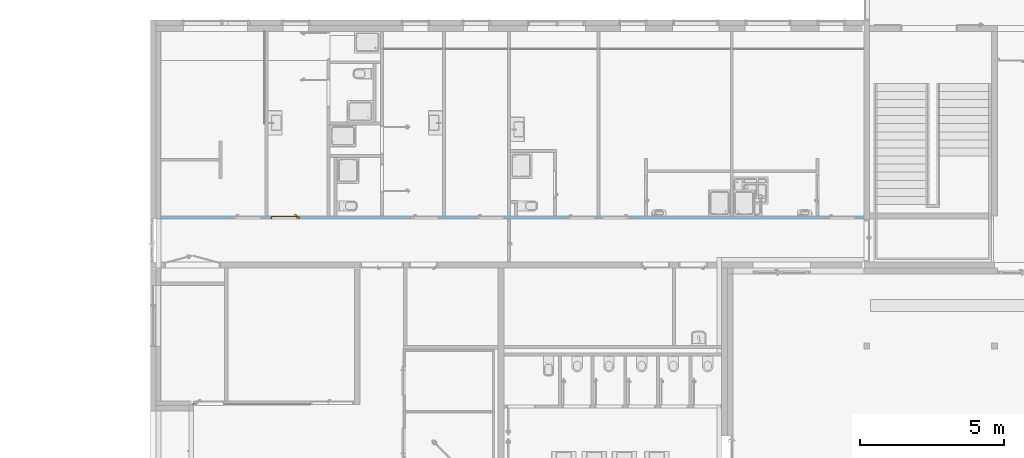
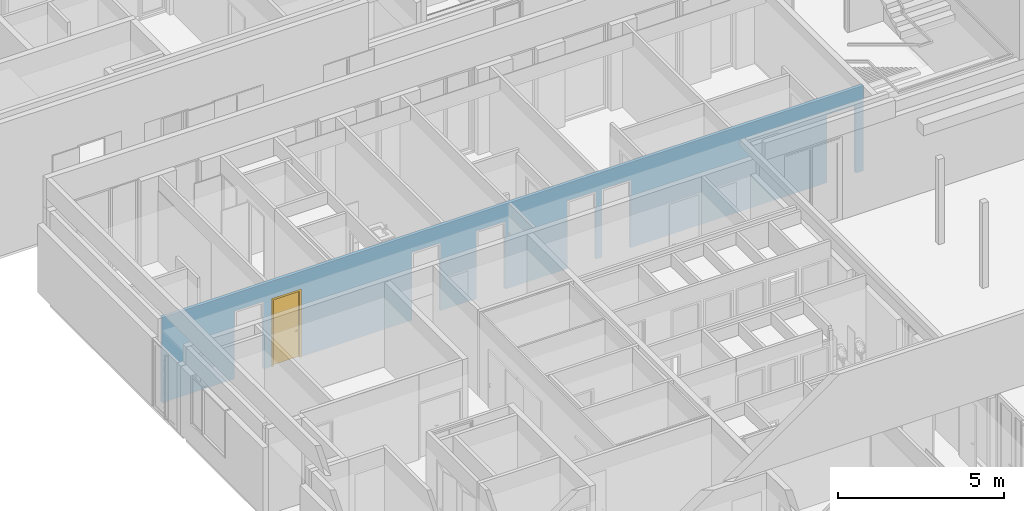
# One storey, part 107 of 240: 1 door, 7 openings, plus 1 element that does not belong to this part.
"""IFC2X3 building model written with IfcOpenShell, lengths in centimetres."""

import ifcopenshell
import ifcopenshell.guid

model = None  # the IFC model being written
_history = None  # IfcOwnerHistory: only IFC2X3 demands one
_inside = {}  # id of a spatial element -> (the spatial element, [elements in it])
_under = {}  # id of a project, library or spatial element -> (it, [spatial elements below it])
_declared = {}  # id of a project -> (the project, [libraries it declares])
_typed = {}  # id of a type object -> (the type object, [elements of that type])
_made_of = {}  # id of a material, layer set ... -> (it, [elements and type objects made of it])


def new_model(schema):
    """Start an empty IFC model of exactly this schema.

    Asked for "IFC4X3", IfcOpenShell would pick the latest addendum, in which some entities
    have other attributes; the version numbers below select the first issue.
    IFC2X3 requires an IfcOwnerHistory on every rooted entity: one is made here for all.
    """
    global model, _history
    if schema == "IFC4X3":
        model = ifcopenshell.file(schema_version=(4, 3, 0, 0))
    else:
        model = ifcopenshell.file(schema=schema)
    _inside.clear()
    _under.clear()
    _declared.clear()
    _typed.clear()
    _made_of.clear()
    _history = None
    if model.schema == "IFC2X3":
        org = make("IfcOrganization", Name="unknown")
        user = make(
            "IfcPersonAndOrganization",
            ThePerson=make("IfcPerson", FamilyName="unknown"),
            TheOrganization=org,
        )
        app = make(
            "IfcApplication",
            ApplicationDeveloper=org,
            Version="unknown",
            ApplicationFullName="unknown",
            ApplicationIdentifier="unknown",
        )
        _history = make(
            "IfcOwnerHistory",
            OwningUser=user,
            OwningApplication=app,
            ChangeAction="ADDED",
            CreationDate=0,
        )
    return model


def make(cls, **values):
    """One entity of the class cls with the attributes given. An attribute that is None is left unset."""
    return model.create_entity(
        cls, **{name: value for name, value in values.items() if value is not None}
    )


def entity(cls, *values):
    """Any entity or typed value of the class cls, its attributes in the order of the schema. None: left unset."""
    e = model.create_entity(cls)
    for i, value in enumerate(values):
        if value is not None:
            e[i] = value
    return e


def rooted(cls, **values):
    """An entity with a GlobalId (a new one), such as an element, a storey or a relation."""
    return make(cls, GlobalId=ifcopenshell.guid.new(), OwnerHistory=_history, **values)


def si_unit(unit_type, name, prefix=None):
    """IfcSIUnit, for example si_unit("LENGTHUNIT", "METRE", prefix="MILLI")."""
    return make("IfcSIUnit", UnitType=unit_type, Prefix=prefix, Name=name)


def converted_unit(unit_type, name, factor, base, dimensions=None, offset=None):
    """IfcConversionBasedUnit, such as the inch: factor (a typed value) times the base unit."""
    return make(
        "IfcConversionBasedUnit"
        if offset is None
        else "IfcConversionBasedUnitWithOffset",
        ConversionOffset=offset,
        Dimensions=None
        if dimensions is None
        else entity("IfcDimensionalExponents", *dimensions),
        UnitType=unit_type,
        Name=name,
        ConversionFactor=make(
            "IfcMeasureWithUnit", ValueComponent=factor, UnitComponent=base
        ),
    )


def derived_unit(unit_type, elements):
    """IfcDerivedUnit: a product of units, each with its exponent."""
    return make(
        "IfcDerivedUnit",
        Elements=[
            make("IfcDerivedUnitElement", Unit=unit, Exponent=power)
            for unit, power in elements
        ],
        UnitType=unit_type,
    )


def assignment(units):
    """IfcUnitAssignment: the units of a project."""
    return None if units is None else make("IfcUnitAssignment", Units=units)


def point(xyz):
    """IfcCartesianPoint."""
    return None if xyz is None else make("IfcCartesianPoint", Coordinates=xyz)


def direction(xyz):
    """IfcDirection."""
    return None if xyz is None else make("IfcDirection", DirectionRatios=xyz)


def frame(location, z_axis=None, x_axis=None):
    """IfcAxis2Placement3D, a coordinate frame: its origin and axes. An axis left out is left unset."""
    return make(
        "IfcAxis2Placement3D",
        Location=point(location),
        Axis=direction(z_axis),
        RefDirection=direction(x_axis),
    )


def frame_2d(location, x_axis=None):
    """IfcAxis2Placement2D, a coordinate frame in the plane: its origin and x axis."""
    return make(
        "IfcAxis2Placement2D", Location=point(location), RefDirection=direction(x_axis)
    )


def origin():
    """The frame at (0, 0, 0) with its axes left unset."""
    return frame((0.0, 0.0, 0.0))


def place(relative_to, where):
    """IfcLocalPlacement: puts the frame where relative to a parent placement (None: the world)."""
    return make(
        "IfcLocalPlacement", PlacementRelTo=relative_to, RelativePlacement=where
    )


def context(
    kind, dimensions, precision=None, world=None, true_north=None, identifier=None
):
    """IfcGeometricRepresentationContext, for example the 3D "Model" context."""
    return make(
        "IfcGeometricRepresentationContext",
        ContextIdentifier=identifier,
        ContextType=kind,
        CoordinateSpaceDimension=dimensions,
        Precision=precision,
        WorldCoordinateSystem=world,
        TrueNorth=true_north,
    )


def subcontext(parent, identifier, kind, view, scale=None):
    """IfcGeometricRepresentationSubContext, for example "Body" below "Model"."""
    return make(
        "IfcGeometricRepresentationSubContext",
        ContextIdentifier=identifier,
        ContextType=kind,
        ParentContext=parent,
        TargetScale=scale,
        TargetView=view,
    )


def project(units=None, contexts=None):
    """IfcProject with its units and contexts."""
    return rooted(
        "IfcProject",
        Name="project",
        RepresentationContexts=contexts,
        UnitsInContext=assignment(units),
    )


def spatial(cls, under=None, at=None, **own):
    """A site, building, storey or space (cls), placed at a placement, below another one or the project."""
    s = rooted(cls, ObjectPlacement=at, **own)
    if under is not None:
        _under.setdefault(under.id(), (under, []))[1].append(s)
    return s


def profile(cls, at=None, kind="AREA", **sizes):
    """A parametric profile (cls). Its sizes go by their IFC names, for example OverallWidth=200.0."""
    return make(cls, ProfileType=kind, Position=at, **sizes)


def rectangle(**sizes):
    """IfcRectangleProfileDef."""
    return profile("IfcRectangleProfileDef", **sizes)


def extrude(swept, where, along, depth):
    """IfcExtrudedAreaSolid: the profile swept, set in the frame where, extruded along a direction by depth."""
    return make(
        "IfcExtrudedAreaSolid",
        SweptArea=swept,
        Position=where,
        ExtrudedDirection=direction(along),
        Depth=depth,
    )


def faces_of(points, faces, orient=None, outer=None):
    """IfcFace entities. A face is a list of loops; a loop is a list of indices into points, from 0.

    orient and outer hold one flag for each loop. By default every Orientation is true, the
    first loop of a face is its IfcFaceOuterBound and the others are IfcFaceBound.
    """
    made = []
    for i, loops in enumerate(faces):
        bounds = []
        for j, loop in enumerate(loops):
            is_outer = j == 0 if outer is None else outer[i][j]
            bounds.append(
                make(
                    "IfcFaceOuterBound" if is_outer else "IfcFaceBound",
                    Bound=make("IfcPolyLoop", Polygon=[points[k] for k in loop]),
                    Orientation=True if orient is None else orient[i][j],
                )
            )
        made.append(make("IfcFace", Bounds=bounds))
    return made


def faceted_brep(points, faces, orient=None, outer=None, voids=None):
    """IfcFacetedBrep: a solid bounded by flat faces; with voids (closed shells), ...WithVoids."""
    shared = [point(p) for p in points]
    hull = make("IfcClosedShell", CfsFaces=faces_of(shared, faces, orient, outer))
    if voids is None:
        return make("IfcFacetedBrep", Outer=hull)
    return make(
        "IfcFacetedBrepWithVoids",
        Outer=hull,
        Voids=[
            make(cls, CfsFaces=faces_of(shared, fs, o, b)) for cls, fs, o, b in voids
        ],
    )


def shape(context_of_items, identifier, shape_type, items):
    """IfcShapeRepresentation: the items that make up one representation, for example the "Body"."""
    return make(
        "IfcShapeRepresentation",
        ContextOfItems=context_of_items,
        RepresentationIdentifier=identifier,
        RepresentationType=shape_type,
        Items=items,
    )


def source(mapping_origin, context_of_items, identifier, shape_type, items):
    """IfcRepresentationMap: a shape defined once, which mapped items show again and again."""
    return make(
        "IfcRepresentationMap",
        MappingOrigin=mapping_origin,
        MappedRepresentation=shape(context_of_items, identifier, shape_type, items),
    )


def transform(
    local_origin,
    x_axis=None,
    y_axis=None,
    z_axis=None,
    scale=None,
    scale2=None,
    scale3=None,
    uniform=True,
):
    """IfcCartesianTransformationOperator3D, or its non-uniform kind. x_axis, y_axis, z_axis: its Axis1, 2, 3."""
    if uniform:
        return make(
            "IfcCartesianTransformationOperator3D",
            Axis1=direction(x_axis),
            Axis2=direction(y_axis),
            LocalOrigin=point(local_origin),
            Scale=scale,
            Axis3=direction(z_axis),
        )
    return make(
        "IfcCartesianTransformationOperator3DnonUniform",
        Axis1=direction(x_axis),
        Axis2=direction(y_axis),
        LocalOrigin=point(local_origin),
        Scale=scale,
        Axis3=direction(z_axis),
        Scale2=scale2,
        Scale3=scale3,
    )


def mapped(mapping_source, mapping_target):
    """IfcMappedItem: shows the shape of a source again, moved by a transform."""
    return make(
        "IfcMappedItem", MappingSource=mapping_source, MappingTarget=mapping_target
    )


def material(Name=None, Category=None):
    """IfcMaterial."""
    return make("IfcMaterial", Name=Name, Category=Category)


def material_list(materials):
    """IfcMaterialList."""
    return make("IfcMaterialList", Materials=materials)


def layer(
    of_material, thickness, ventilated=None, Name=None, Category=None, Priority=None
):
    """IfcMaterialLayer: one layer of a wall or slab, of a material (None: an air gap)."""
    return make(
        "IfcMaterialLayer",
        Material=of_material,
        LayerThickness=thickness,
        IsVentilated=ventilated,
        Name=Name,
        Category=Category,
        Priority=Priority,
    )


def layer_set(layers, Name=None):
    """IfcMaterialLayerSet."""
    return make("IfcMaterialLayerSet", MaterialLayers=layers, LayerSetName=Name)


def layer_usage(for_layer_set, set_direction, sense, offset, extent=None):
    """IfcMaterialLayerSetUsage: how a layer set lies in its element."""
    return make(
        "IfcMaterialLayerSetUsage",
        ForLayerSet=for_layer_set,
        LayerSetDirection=set_direction,
        DirectionSense=sense,
        OffsetFromReferenceLine=offset,
        ReferenceExtent=extent,
    )


def made_of(thing, what):
    """Note that an element or type object is made of a material, layer set ...; save() writes the relation."""
    if what is not None:
        _made_of.setdefault(what.id(), (what, []))[1].append(thing)
    return thing


def type_object(cls, material=None, **own):
    """A type object (cls), such as IfcWallType, which elements share."""
    return made_of(rooted(cls, **own), material)


def type_shapes(of_type, sources):
    """Give a type object the sources (RepresentationMaps) that its elements show as mapped items."""
    of_type.RepresentationMaps = sources


def element(
    cls,
    number,
    at=None,
    inside=None,
    cuts=None,
    type_object=None,
    material=None,
    context=None,
    identifier="Body",
    shape_type=None,
    held_by="IfcProductDefinitionShape",
    body=None,
    shapes=None,
    **own,
):
    """One element of the class cls, such as IfcWall. Its Tag is "e" and its number.

    at: its placement. inside: the storey or other place that contains it. cuts: it is an
    opening in that element (IfcRelVoidsElement). A single representation is given by context,
    identifier, shape_type and body (its items); several are given by shapes. held_by: the class
    of the entity that holds the representations. save() writes the other relations.
    """
    e = rooted(cls, Tag="e%d" % number, ObjectPlacement=at, **own)
    if body is not None:
        shapes = [shape(context, identifier, shape_type, body)]
    if shapes is not None:
        e.Representation = make(held_by, Representations=shapes)
    if inside is not None:
        _inside.setdefault(inside.id(), (inside, []))[1].append(e)
    if cuts is not None:
        rooted(
            "IfcRelVoidsElement", RelatingBuildingElement=cuts, RelatedOpeningElement=e
        )
    if type_object is not None:
        _typed.setdefault(type_object.id(), (type_object, []))[1].append(e)
    return made_of(e, material)


def fill(opening, filler):
    """IfcRelFillsElement: the door or window that sits in an opening."""
    return rooted(
        "IfcRelFillsElement",
        RelatingOpeningElement=opening,
        RelatedBuildingElement=filler,
    )


def aggregate(whole, parts):
    """IfcRelAggregates: a whole, such as a stair, and the parts it consists of."""
    return rooted("IfcRelAggregates", RelatingObject=whole, RelatedObjects=parts)


def save(model, path):
    """Write the relations noted so far, then the file.

    IfcRelAggregates (storeys below a building ...), IfcRelContainedInSpatialStructure (elements
    in a storey), IfcRelDefinesByType, IfcRelAssociatesMaterial and IfcRelDeclares: one each for
    every whole, place, type object, material and project.
    """
    for whole, parts in _under.values():
        aggregate(whole, parts)
    for where, things in _inside.values():
        rooted(
            "IfcRelContainedInSpatialStructure",
            RelatedElements=things,
            RelatingStructure=where,
        )
    for kind, things in _typed.values():
        rooted("IfcRelDefinesByType", RelatedObjects=things, RelatingType=kind)
    for what, things in _made_of.values():
        rooted("IfcRelAssociatesMaterial", RelatedObjects=things, RelatingMaterial=what)
    for by, libraries in _declared.values():
        rooted("IfcRelDeclares", RelatingContext=by, RelatedDefinitions=libraries)
    model.write(path)


model = new_model("IFC2X3")

# Units and contexts
model_context = context("Model", 3, precision=0.001, world=origin(), true_north=direction((6.12303176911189e-17, 1.0)))
body_context = subcontext(model_context, "Body", "Model", "MODEL_VIEW")
ifc_project = project(units=[si_unit("LENGTHUNIT", "METRE", prefix="CENTI"), si_unit("AREAUNIT", "SQUARE_METRE"), si_unit("VOLUMEUNIT", "CUBIC_METRE"), converted_unit("PLANEANGLEUNIT", "DEGREE", entity("IfcRatioMeasure", 0.0174532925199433), si_unit("PLANEANGLEUNIT", "RADIAN"), dimensions=[0, 0, 0, 0, 0, 0, 0]), si_unit("MASSUNIT", "GRAM", prefix="KILO"), derived_unit("MASSDENSITYUNIT", [(si_unit("MASSUNIT", "GRAM", prefix="KILO"), 1), (si_unit("LENGTHUNIT", "METRE"), -3)]), si_unit("TIMEUNIT", "SECOND"), si_unit("FREQUENCYUNIT", "HERTZ"), si_unit("THERMODYNAMICTEMPERATUREUNIT", "DEGREE_CELSIUS"), derived_unit("THERMALTRANSMITTANCEUNIT", [(si_unit("MASSUNIT", "GRAM", prefix="KILO"), 1), (si_unit("THERMODYNAMICTEMPERATUREUNIT", "KELVIN"), -1), (si_unit("TIMEUNIT", "SECOND"), -3)]), derived_unit("VOLUMETRICFLOWRATEUNIT", [(si_unit("LENGTHUNIT", "METRE"), 3), (si_unit("TIMEUNIT", "SECOND"), -1)]), si_unit("ELECTRICCURRENTUNIT", "AMPERE"), si_unit("ELECTRICVOLTAGEUNIT", "VOLT"), si_unit("POWERUNIT", "WATT"), si_unit("FORCEUNIT", "NEWTON", prefix="KILO"), si_unit("ILLUMINANCEUNIT", "LUX"), si_unit("LUMINOUSFLUXUNIT", "LUMEN"), si_unit("LUMINOUSINTENSITYUNIT", "CANDELA"), derived_unit("USERDEFINED", [(si_unit("MASSUNIT", "GRAM", prefix="KILO"), -1), (si_unit("LENGTHUNIT", "METRE"), -2), (si_unit("TIMEUNIT", "SECOND"), 3), (si_unit("LUMINOUSFLUXUNIT", "LUMEN"), 1)]), derived_unit("LINEARVELOCITYUNIT", [(si_unit("LENGTHUNIT", "METRE"), 1), (si_unit("TIMEUNIT", "SECOND"), -1)]), si_unit("PRESSUREUNIT", "PASCAL"), derived_unit("USERDEFINED", [(si_unit("LENGTHUNIT", "METRE"), -2), (si_unit("MASSUNIT", "GRAM", prefix="KILO"), 1), (si_unit("TIMEUNIT", "SECOND"), -2)])], contexts=[model_context])

# Site, building, storey
site_placement = place(None, frame((-2781.94577612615, 7442.24238424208, 0.0)))
site = spatial("IfcSite", under=ifc_project, at=site_placement, Name="Default", CompositionType="ELEMENT")
building_placement = place(site_placement, origin())
building = spatial("IfcBuilding", under=site, at=building_placement, CompositionType="ELEMENT")
storey_placement = place(building_placement, origin())
storey = spatial("IfcBuildingStorey", under=building, at=storey_placement, Name="N00 - COO", CompositionType="ELEMENT", Elevation=0.0)

# Wall, openings, door
ifc_material_1 = material(Name="01 - Enduit/Plâtre")
ifc_layer_1 = layer(ifc_material_1, 1.3)
ifc_material_2 = material(Name="00 - Isolant")
ifc_layer_2 = layer(ifc_material_2, 7.4)
ifc_layer_3 = layer(ifc_material_1, 1.3)
ifc_layer_set = layer_set([ifc_layer_1, ifc_layer_2, ifc_layer_3], Name="Mur de base:06 - cloisons - Ba13 10cm")
ifc_layer_usage = layer_usage(ifc_layer_set, "AXIS2", "NEGATIVE", 5.0)
wall_type = type_object("IfcWallType", Name="Mur de base:06 - cloisons - Ba13 10cm", PredefinedType="STANDARD", material=ifc_layer_set)
wall_placement = place(building_placement, frame((-10866.3130476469, -1755.0, 0.0)))
wall = element("IfcWallStandardCase", 1, at=wall_placement, inside=storey, type_object=wall_type, material=ifc_layer_usage, Name="Mur de base:06 - cloisons - Ba13 10cm", ObjectType="Mur de base:06 - cloisons - Ba13 10cm", context=body_context, shape_type="SweptSolid", body=[
    extrude(rectangle(XDim=2435.48317594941, YDim=9.99999999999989, at=frame_2d((1217.7415879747, 3.37507799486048e-14), x_axis=(-1.0, 0.0))), origin(), (0.0, 0.0, 1.0), 313.0),
])
opening_1_placement = place(wall_placement, frame((2309.31316997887, -5.0, 0.0)))
element("IfcOpeningElement", 2, at=opening_1_placement, cuts=wall, Name="Int. Simple:PP simple (0.93m x 2.50m):1", ObjectType="Opening", context=body_context, shape_type="SweptSolid", body=[
    extrude(rectangle(XDim=248.500000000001, YDim=99.9999999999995, at=frame_2d((124.250000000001, 49.9999999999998), x_axis=(1.0, 0.0))), frame((0.0, 0.0, 0.0), z_axis=(0.0, 1.0, 0.0), x_axis=(0.0, 0.0, 1.0)), (0.0, 0.0, 1.0), 10.0),
])
opening_2_placement = place(wall_placement, frame((1527.31316997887, -5.0, 0.0)))
element("IfcOpeningElement", 3, at=opening_2_placement, cuts=wall, Name="Int. Simple:PP simple (0.93m x 2.50m):1", ObjectType="Opening", context=body_context, shape_type="SweptSolid", body=[
    extrude(rectangle(XDim=248.500000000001, YDim=99.9999999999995, at=frame_2d((124.250000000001, 50.0), x_axis=(1.0, 0.0))), frame((0.0, 0.0, 0.0), z_axis=(0.0, 1.0, 0.0), x_axis=(0.0, 0.0, 1.0)), (0.0, 0.0, 1.0), 10.0),
])
opening_3_placement = place(wall_placement, frame((1406.81316997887, -5.0, 0.0)))
element("IfcOpeningElement", 4, at=opening_3_placement, cuts=wall, Name="Int. Simple:PP simple (0.93m x 2.50m):1", ObjectType="Opening", context=body_context, shape_type="SweptSolid", body=[
    extrude(rectangle(XDim=248.500000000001, YDim=99.9999999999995, at=frame_2d((124.250000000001, 49.9999999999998), x_axis=(1.0, 0.0))), frame((0.0, 0.0, 0.0), z_axis=(0.0, 1.0, 0.0), x_axis=(0.0, 0.0, 1.0)), (0.0, 0.0, 1.0), 10.0),
])
opening_4_placement = place(wall_placement, frame((1091.81316997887, -5.0, 0.0)))
element("IfcOpeningElement", 5, at=opening_4_placement, cuts=wall, Name="Int. Simple:PP simple (0.93m x 2.50m):1", ObjectType="Opening", context=body_context, shape_type="SweptSolid", body=[
    extrude(rectangle(XDim=248.500000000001, YDim=99.9999999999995, at=frame_2d((124.250000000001, 49.9999999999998), x_axis=(1.0, 0.0))), frame((0.0, 0.0, 0.0), z_axis=(0.0, 1.0, 0.0), x_axis=(0.0, 0.0, 1.0)), (0.0, 0.0, 1.0), 10.0),
])
opening_5_placement = place(wall_placement, frame((866.813169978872, -5.0, 0.0)))
element("IfcOpeningElement", 6, at=opening_5_placement, cuts=wall, Name="Int. Simple:PP simple (0.93m x 2.50m):1", ObjectType="Opening", context=body_context, shape_type="SweptSolid", body=[
    extrude(rectangle(XDim=248.500000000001, YDim=99.9999999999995, at=frame_2d((124.250000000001, 49.9999999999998), x_axis=(1.0, 0.0))), frame((0.0, 0.0, 0.0), z_axis=(0.0, 1.0, 0.0), x_axis=(0.0, 0.0, 1.0)), (0.0, 0.0, 1.0), 10.0),
])
opening_6_placement = place(wall_placement, frame((381.813169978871, -5.0, 0.0)))
opening_6 = element("IfcOpeningElement", 7, at=opening_6_placement, cuts=wall, Name="Int. Simple:PP simple (0.93m x 2.50m):1", ObjectType="Opening", context=body_context, shape_type="SweptSolid", body=[
    extrude(rectangle(XDim=248.500000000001, YDim=99.9999999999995, at=frame_2d((124.250000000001, 50.0), x_axis=(1.0, 0.0))), frame((0.0, 0.0, 0.0), z_axis=(0.0, 1.0, 0.0), x_axis=(0.0, 0.0, 1.0)), (0.0, 0.0, 1.0), 10.0),
])
opening_7_placement = place(wall_placement, frame((251.813169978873, -5.0, 0.0)))
element("IfcOpeningElement", 8, at=opening_7_placement, cuts=wall, Name="Int. Simple:PP simple (0.93m x 2.50m):1", ObjectType="Opening", context=body_context, shape_type="SweptSolid", body=[
    extrude(rectangle(XDim=248.500000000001, YDim=99.9999999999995, at=frame_2d((124.250000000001, 49.9999999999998), x_axis=(1.0, 0.0))), frame((0.0, 0.0, 0.0), z_axis=(0.0, 1.0, 0.0), x_axis=(0.0, 0.0, 1.0)), (0.0, 0.0, 1.0), 10.0),
])
ifc_material_3 = material(Name="Finition Peinture - Blanc satiné")
ifc_material_4 = material(Name="Bois - Panneau de porte")
ifc_material_5 = material(Name="Bois - Cadre de porte")
ifc_material_list_1 = material_list([ifc_material_3, ifc_material_4, ifc_material_5])
ifc_material_list_2 = material_list([ifc_material_3, ifc_material_4, ifc_material_5])
door_style = type_object("IfcDoorStyle", Name="PP simple (0.93m x 2.50m)", ConstructionType="NOTDEFINED", OperationType="SINGLE_SWING_LEFT", ParameterTakesPrecedence=False, Sizeable=False, material=ifc_material_list_2)
shared_shape = source(origin(), body_context, "Body", "Brep", [
    faceted_brep([(10.5352761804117, -0.500000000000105, 86.6003983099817), (11.5000000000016, -0.500000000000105, 87.0), (11.5000000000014, -0.500000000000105, 108.0), (10.5352761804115, -0.500000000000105, 108.399601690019), (9.50000000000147, -0.500000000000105, 108.535898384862), (8.46472381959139, -0.500000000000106, 108.399601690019), (7.50000000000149, -0.500000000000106, 108.0), (7.50000000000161, -0.500000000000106, 87.0), (8.46472381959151, -0.500000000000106, 86.6003983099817), (9.50000000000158, -0.500000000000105, 86.464101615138), (10.5352761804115, 0.0, 108.399601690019), (11.5000000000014, 0.0, 108.0), (11.5000000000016, 0.0, 87.0), (10.5352761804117, 0.0, 86.6003983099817), (9.50000000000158, 0.0, 86.464101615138), (8.46472381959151, 0.0, 86.6003983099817), (7.50000000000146, 0.0, 87.0), (7.50000000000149, 0.0, 108.0), (8.46472381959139, 0.0, 108.399601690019), (9.50000000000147, 0.0, 108.535898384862)], [[[0, 1, 2, 3, 4, 5, 6, 7, 8, 9]], [[10, 11, 12, 13, 14, 15, 16, 17, 18, 19]], [[16, 15, 8, 7]], [[8, 15, 14, 9]], [[14, 13, 0, 9]], [[13, 12, 1, 0]], [[2, 1, 12, 11]], [[11, 10, 3, 2]], [[3, 10, 19, 4]], [[19, 18, 5, 4]], [[18, 17, 6, 5]], [[7, 6, 17, 16]]]),
    faceted_brep([(10.5352761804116, 4.0, 86.6003983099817), (11.5000000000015, 4.0, 87.0), (11.5000000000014, 4.0, 108.0), (10.5352761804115, 4.0, 108.399601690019), (9.50000000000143, 4.0, 108.535898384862), (8.46472381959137, 4.0, 108.399601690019), (7.50000000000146, 4.0, 108.0), (7.50000000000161, 4.0, 87.0), (8.46472381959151, 4.0, 86.6003983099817), (9.50000000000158, 4.0, 86.464101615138), (10.5352761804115, 4.49999999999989, 108.399601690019), (11.5000000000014, 4.49999999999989, 108.0), (11.5000000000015, 4.49999999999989, 87.0), (10.5352761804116, 4.49999999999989, 86.6003983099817), (9.50000000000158, 4.49999999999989, 86.464101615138), (8.46472381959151, 4.49999999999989, 86.6003983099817), (7.50000000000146, 4.49999999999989, 87.0), (7.50000000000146, 4.49999999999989, 108.0), (8.46472381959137, 4.49999999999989, 108.399601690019), (9.50000000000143, 4.49999999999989, 108.535898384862)], [[[0, 1, 2, 3, 4, 5, 6, 7, 8, 9]], [[10, 11, 12, 13, 14, 15, 16, 17, 18, 19]], [[11, 10, 3, 2]], [[3, 10, 19, 4]], [[19, 18, 5, 4]], [[18, 17, 6, 5]], [[7, 6, 17, 16]], [[16, 15, 8, 7]], [[8, 15, 14, 9]], [[14, 13, 0, 9]], [[13, 12, 1, 0]], [[2, 1, 12, 11]]]),
    faceted_brep([(9.29747013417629, -0.500000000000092, 100.778044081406), (9.70252986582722, -0.50000000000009, 100.778044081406), (10.1000000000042, -0.500000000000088, 100.699999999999), (10.1000000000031, -0.500000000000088, 99.3000000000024), (9.7025298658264, -0.50000000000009, 99.2219559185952), (9.29747013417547, -0.500000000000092, 99.221955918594), (8.8999999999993, -0.500000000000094, 99.2999999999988), (8.89999999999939, -0.500000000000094, 100.7), (8.89999999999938, -3.26509507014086, 100.7), (9.29747013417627, -3.10045754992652, 100.778044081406), (10.9023585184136, -4.70534593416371, 100.778044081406), (11.0701397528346, -4.30028620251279, 100.778044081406), (9.7025298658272, -2.93267631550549, 100.778044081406), (10.1000000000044, -2.76803879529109, 100.7), (10.1000000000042, -2.76803879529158, 99.3000000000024), (9.7025298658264, -2.93267631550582, 99.2219559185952), (11.0701397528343, -4.30028620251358, 99.2219559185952), (10.9023585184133, -4.70534593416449, 99.221955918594), (9.29747013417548, -3.10045754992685, 99.221955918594), (8.89999999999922, -3.26509507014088, 99.2999999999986), (10.7377209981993, -5.10281606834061, 100.7), (11.2347772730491, -3.90281606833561, 100.7), (11.2347772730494, -3.90281606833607, 99.3000000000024), (10.7377209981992, -5.10281606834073, 99.2999999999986), (19.5018640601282, -5.10281606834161, 99.2999999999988), (19.5018640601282, -4.70534593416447, 99.221955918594), (19.5018640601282, -4.30028620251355, 99.2219559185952), (19.5018640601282, -3.9028160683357, 99.3000000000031), (19.5018640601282, -3.90281606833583, 100.7), (19.5018640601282, -4.30028620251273, 100.778044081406), (19.5018640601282, -4.70534593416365, 100.778044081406), (19.5018640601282, -5.10281606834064, 100.699999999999), (14.7307697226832, -5.10281606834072, 100.7), (15.2860019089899, -4.5028160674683, 100.78786867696), (15.3683206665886, -3.9028160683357, 100.7), (15.3683206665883, -3.9028160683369, 99.3000000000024), (15.2860018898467, -4.50281607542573, 99.2121313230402), (14.7307700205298, -5.10281606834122, 99.2999999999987)], [[[0, 1, 2, 3, 4, 5, 6, 7]], [[8, 9, 0, 7]], [[9, 10, 11, 12, 1, 0]], [[12, 13, 2, 1]], [[3, 2, 13, 14]], [[14, 15, 4, 3]], [[15, 16, 17, 18, 5, 4]], [[18, 19, 6, 5]], [[7, 6, 19, 8]], [[20, 10, 9, 8]], [[11, 21, 13, 12]], [[14, 13, 21, 22]], [[22, 16, 15, 14]], [[17, 23, 19, 18]], [[8, 19, 23, 20]], [[24, 25, 26, 27, 28, 29, 30, 31]], [[32, 30, 33]], [[31, 30, 32]], [[10, 20, 32]], [[33, 34, 11]], [[21, 11, 34]], [[34, 29, 28]], [[30, 29, 33]], [[29, 34, 33]], [[10, 32, 33]], [[10, 33, 11]], [[22, 21, 34, 28, 27, 35]], [[35, 26, 36]], [[37, 36, 25]], [[22, 35, 16]], [[35, 27, 26]], [[24, 37, 25]], [[23, 17, 37]], [[37, 17, 36]], [[17, 16, 36]], [[16, 35, 36]], [[25, 36, 26]], [[20, 23, 37, 24, 31, 32]]]),
    faceted_brep([(9.29747013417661, 4.49999999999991, 100.778044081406), (8.89999999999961, 4.4999999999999, 100.7), (8.89999999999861, 4.4999999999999, 99.2999999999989), (9.29747013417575, 4.49999999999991, 99.221955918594), (9.70252986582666, 4.49999999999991, 99.2219559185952), (10.1000000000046, 4.49999999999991, 99.3000000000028), (10.1000000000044, 4.49999999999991, 100.7), (9.70252986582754, 4.49999999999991, 100.778044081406), (10.1000000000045, 6.7485204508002, 99.3000000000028), (10.1000000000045, 6.74852045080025, 100.7), (9.70252986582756, 6.91315797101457, 100.778044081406), (11.083890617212, 8.29451872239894, 100.778044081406), (10.916109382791, 8.69957845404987, 100.778044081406), (9.29747013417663, 7.0809392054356, 100.778044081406), (8.89999999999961, 7.24557672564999, 100.7), (8.89999999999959, 7.2455767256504, 99.2999999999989), (9.29747013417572, 7.08093920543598, 99.221955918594), (10.9161093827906, 8.69957845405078, 99.221955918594), (11.0838906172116, 8.29451872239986, 99.2219559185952), (9.70252986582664, 6.91315797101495, 99.2219559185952), (11.2485281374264, 7.89704858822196, 99.3000000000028), (11.2485281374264, 7.89704858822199, 100.7), (10.7514718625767, 9.09704858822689, 100.7), (10.7514718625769, 9.0970485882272, 99.2999999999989), (19.5045783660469, 7.89704858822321, 99.3000000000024), (19.5045783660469, 8.29451872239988, 99.2219559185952), (19.5045783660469, 8.6995784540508, 99.221955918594), (19.5045783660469, 9.09704858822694, 99.2999999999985), (19.5045783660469, 9.09704858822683, 100.7), (19.5045783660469, 8.69957845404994, 100.778044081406), (19.5045783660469, 8.29451872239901, 100.778044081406), (19.5045783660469, 7.89704858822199, 100.7), (15.3765520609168, 7.89704858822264, 99.3000000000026), (15.3765532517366, 7.89704858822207, 100.7), (15.294234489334, 8.49704858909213, 100.78786867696), (14.7445205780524, 9.09704858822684, 100.7), (14.7445204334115, 9.09704858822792, 99.2999999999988), (15.2942345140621, 8.49704858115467, 99.2121313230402)], [[[0, 1, 2, 3, 4, 5, 6, 7]], [[6, 5, 8, 9]], [[9, 10, 7, 6]], [[10, 11, 12, 13, 0, 7]], [[13, 14, 1, 0]], [[2, 1, 14, 15]], [[15, 16, 3, 2]], [[16, 17, 18, 19, 4, 3]], [[19, 8, 5, 4]], [[9, 8, 20, 21]], [[21, 11, 10, 9]], [[12, 22, 14, 13]], [[15, 14, 22, 23]], [[23, 17, 16, 15]], [[18, 20, 8, 19]], [[24, 25, 26, 27, 28, 29, 30, 31]], [[21, 20, 32, 24, 31, 33]], [[33, 30, 34]], [[35, 34, 29]], [[21, 33, 11]], [[33, 31, 30]], [[28, 35, 29]], [[22, 12, 35]], [[35, 12, 34]], [[12, 11, 34]], [[11, 33, 34]], [[29, 34, 30]], [[22, 35, 28, 27, 36, 23]], [[36, 26, 37]], [[27, 26, 36]], [[17, 23, 36]], [[37, 32, 18]], [[20, 18, 32]], [[32, 25, 24]], [[26, 25, 37]], [[25, 32, 37]], [[17, 36, 37]], [[17, 37, 18]]]),
    faceted_brep([(3.50000000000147, 4.0, 245.0), (96.5000000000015, 4.0, 245.0), (96.5000000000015, 4.0, 0.0), (3.50000000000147, 4.0, 0.0), (3.50000000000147, 0.0, 245.0), (3.50000000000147, 0.0, 0.0), (96.5000000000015, 0.0, 0.0), (96.5000000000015, 0.0, 245.0)], [[[0, 1, 2, 3]], [[4, 5, 6, 7]], [[1, 0, 4, 7]], [[2, 1, 7, 6]], [[3, 2, 6, 5]], [[0, 3, 5, 4]]]),
    faceted_brep([(0.0, 10.0, 0.0), (-1.50000000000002, 10.0, 0.0), (-1.50000000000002, 10.5000000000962, 0.0), (5.0, 10.5000000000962, 0.0), (5.0, 4.0, 0.0), (3.50000000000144, 4.0, 0.0), (3.50000000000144, -0.500000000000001, 0.0), (-1.50000000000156, -0.500000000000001, 0.0), (-1.50000000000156, 0.0, 0.0), (0.0, 0.0, 0.0), (0.0, 0.0, 248.500000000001), (0.0, 10.0, 248.500000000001), (100.0, 10.0, 248.500000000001), (100.0, 10.0, 0.0), (101.5, 10.0, 0.0), (101.5, 10.0, 250.0), (-1.50000000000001, 10.0, 250.0), (5.0, 10.5000000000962, 243.5), (5.0, 4.0, 243.5), (95.0, 4.0, 243.5), (95.0, 4.0, 0.0), (96.499999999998, 4.0, 0.0), (96.499999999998, 4.0, 245.0), (3.50000000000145, 4.0, 245.0), (100.0, 0.0, 248.500000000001), (100.0, 0.0, 0.0), (101.500000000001, 0.0, 0.0), (101.500000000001, -0.500000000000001, 0.0), (96.499999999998, -0.500000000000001, 0.0), (95.0, 10.5000000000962, 0.0), (101.5, 10.5000000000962, 0.0), (95.0, 10.5000000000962, 243.5), (3.50000000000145, -0.500000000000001, 245.0), (96.499999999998, -0.500000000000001, 245.0), (101.500000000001, -0.500000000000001, 250.0), (-1.50000000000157, -0.500000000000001, 250.0), (-1.50000000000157, 0.0, 250.0), (101.500000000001, 0.0, 250.0), (-1.50000000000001, 10.5000000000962, 250.0), (101.5, 10.5000000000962, 250.0)], [[[0, 1, 2, 3, 4, 5, 6, 7, 8, 9]], [[0, 9, 10, 11]], [[1, 0, 11, 12, 13, 14, 15, 16]], [[3, 17, 18, 4]], [[5, 4, 18, 19, 20, 21, 22, 23]], [[12, 24, 25, 13]], [[13, 25, 26, 27, 28, 21, 20, 29, 30, 14]], [[19, 31, 29, 20]], [[11, 10, 24, 12]], [[18, 17, 31, 19]], [[5, 23, 32, 6]], [[7, 6, 32, 33, 28, 27, 34, 35]], [[8, 7, 35, 36]], [[9, 8, 36, 37, 26, 25, 24, 10]], [[2, 1, 16, 38]], [[3, 2, 38, 39, 30, 29, 31, 17]], [[33, 22, 21, 28]], [[37, 34, 27, 26]], [[39, 15, 14, 30]], [[32, 23, 22, 33]], [[36, 35, 34, 37]], [[38, 16, 15, 39]]]),
])
type_shapes(door_style, [shared_shape])
door_placement = place(opening_6_placement, frame((100.0, 10.0, 0.0), z_axis=(0.0, 0.0, 1.0), x_axis=(-1.0, 0.0, 0.0)))
door = element("IfcDoor", 9, at=door_placement, inside=storey, type_object=door_style, material=ifc_material_list_1, Name="Int. Simple:PP simple (0.93m x 2.50m)", ObjectType="Int. Simple:PP simple (0.93m x 2.50m)", OverallHeight=248.500000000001, OverallWidth=99.9999999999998, context=body_context, shape_type="MappedRepresentation", body=[
    mapped(shared_shape, transform((0.0, 0.0, 0.0), scale=1.0)),
])
fill(opening_6, door)

save(model, "model.ifc")
